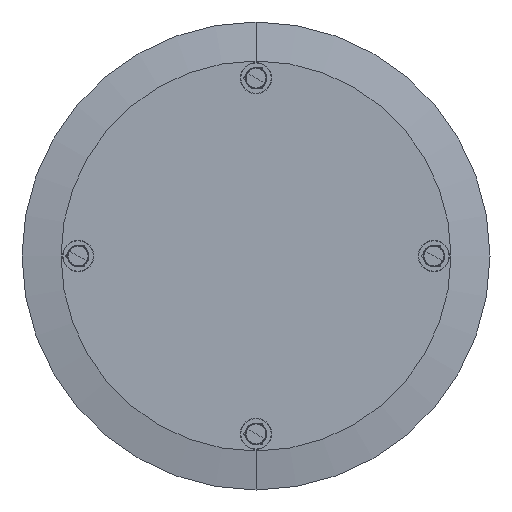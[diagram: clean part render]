
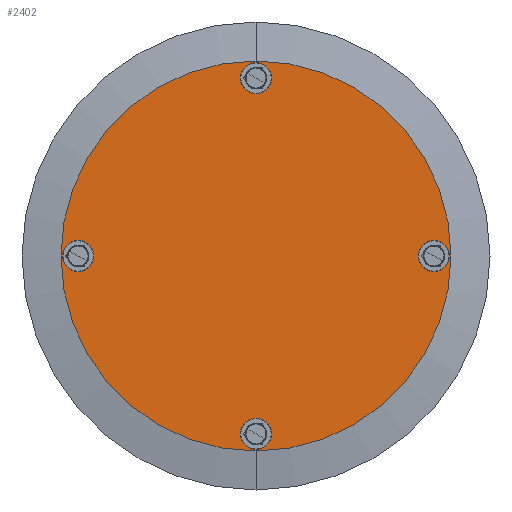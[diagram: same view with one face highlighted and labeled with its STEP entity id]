
A CAD part, front view. The second image highlights one B-rep face of the part: STEP entity #2402.
In plain terms, the highlighted planar face has unit normal (0, -1, 0).
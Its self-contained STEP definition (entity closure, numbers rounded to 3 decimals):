
#12 = AXIS2_PLACEMENT_3D ( 'NONE', #485, #2027, #852 ) ;
#20 = CARTESIAN_POINT ( 'NONE',  ( 0., 0., -416. ) ) ;
#89 = ORIENTED_EDGE ( 'NONE', *, *, #240, .F. ) ;
#122 = AXIS2_PLACEMENT_3D ( 'NONE', #2231, #1513, #1075 ) ;
#168 = ORIENTED_EDGE ( 'NONE', *, *, #2023, .F. ) ;
#200 = DIRECTION ( 'NONE',  ( 0., -1., 0. ) ) ;
#208 = EDGE_LOOP ( 'NONE', ( #2228, #324 ) ) ;
#213 = DIRECTION ( 'NONE',  ( 0., 0., -1. ) ) ;
#225 = EDGE_CURVE ( 'NONE', #494, #1640, #2277, .T. ) ;
#240 = EDGE_CURVE ( 'NONE', #2420, #2248, #1776, .T. ) ;
#241 = FACE_BOUND ( 'NONE', #2413, .T. ) ;
#301 = CARTESIAN_POINT ( 'NONE',  ( 0., 0., -456. ) ) ;
#307 = CIRCLE ( 'NONE', #2097, 40. ) ;
#315 = CARTESIAN_POINT ( 'NONE',  ( 0., 0., 456. ) ) ;
#319 = CARTESIAN_POINT ( 'NONE',  ( -456., 0., -40. ) ) ;
#324 = ORIENTED_EDGE ( 'NONE', *, *, #1356, .T. ) ;
#361 = DIRECTION ( 'NONE',  ( 0., 0., -1. ) ) ;
#422 = ORIENTED_EDGE ( 'NONE', *, *, #590, .F. ) ;
#485 = CARTESIAN_POINT ( 'NONE',  ( 0., 0., 456. ) ) ;
#488 = DIRECTION ( 'NONE',  ( 0., 0., -1. ) ) ;
#494 = VERTEX_POINT ( 'NONE', #20 ) ;
#504 = DIRECTION ( 'NONE',  ( 0., -1., 0. ) ) ;
#510 = CARTESIAN_POINT ( 'NONE',  ( 0., 0., 500. ) ) ;
#519 = DIRECTION ( 'NONE',  ( 0., 0., 1. ) ) ;
#569 = AXIS2_PLACEMENT_3D ( 'NONE', #1127, #1547, #1738 ) ;
#590 = EDGE_CURVE ( 'NONE', #1817, #2252, #2434, .T. ) ;
#615 = VERTEX_POINT ( 'NONE', #2322 ) ;
#616 = CIRCLE ( 'NONE', #569, 40. ) ;
#754 = DIRECTION ( 'NONE',  ( 0., 0., -1. ) ) ;
#763 = CARTESIAN_POINT ( 'NONE',  ( 456., 0., 0. ) ) ;
#788 = AXIS2_PLACEMENT_3D ( 'NONE', #2456, #504, #519 ) ;
#842 = FACE_OUTER_BOUND ( 'NONE', #208, .T. ) ;
#852 = DIRECTION ( 'NONE',  ( 0., 0., -1. ) ) ;
#1047 = VERTEX_POINT ( 'NONE', #319 ) ;
#1049 = VERTEX_POINT ( 'NONE', #510 ) ;
#1075 = DIRECTION ( 'NONE',  ( 0., 0., 1. ) ) ;
#1086 = CARTESIAN_POINT ( 'NONE',  ( 0., 0., 496. ) ) ;
#1106 = DIRECTION ( 'NONE',  ( 0., -1., 0. ) ) ;
#1116 = CARTESIAN_POINT ( 'NONE',  ( -456., 0., 40. ) ) ;
#1127 = CARTESIAN_POINT ( 'NONE',  ( -456., 0., 0. ) ) ;
#1146 = ORIENTED_EDGE ( 'NONE', *, *, #1431, .F. ) ;
#1147 = CIRCLE ( 'NONE', #2002, 500. ) ;
#1178 = CARTESIAN_POINT ( 'NONE',  ( 0., 0., 416. ) ) ;
#1182 = CARTESIAN_POINT ( 'NONE',  ( 456., 0., 0. ) ) ;
#1207 = ORIENTED_EDGE ( 'NONE', *, *, #225, .F. ) ;
#1217 = CIRCLE ( 'NONE', #1360, 40. ) ;
#1325 = DIRECTION ( 'NONE',  ( 0., -1., 0. ) ) ;
#1354 = ORIENTED_EDGE ( 'NONE', *, *, #1560, .F. ) ;
#1356 = EDGE_CURVE ( 'NONE', #615, #1049, #1559, .T. ) ;
#1360 = AXIS2_PLACEMENT_3D ( 'NONE', #315, #1537, #488 ) ;
#1365 = EDGE_LOOP ( 'NONE', ( #2161, #1207 ) ) ;
#1381 = DIRECTION ( 'NONE',  ( 0., -1., 0. ) ) ;
#1431 = EDGE_CURVE ( 'NONE', #1047, #2076, #1580, .T. ) ;
#1435 = EDGE_CURVE ( 'NONE', #1049, #615, #1147, .T. ) ;
#1486 = EDGE_CURVE ( 'NONE', #1640, #494, #1848, .T. ) ;
#1491 = DIRECTION ( 'NONE',  ( 0., 0., -1. ) ) ;
#1495 = FACE_BOUND ( 'NONE', #1549, .T. ) ;
#1513 = DIRECTION ( 'NONE',  ( 0., 1., 0. ) ) ;
#1531 = FACE_BOUND ( 'NONE', #1365, .T. ) ;
#1534 = CARTESIAN_POINT ( 'NONE',  ( 456., 0., 40. ) ) ;
#1537 = DIRECTION ( 'NONE',  ( 0., -1., 0. ) ) ;
#1545 = AXIS2_PLACEMENT_3D ( 'NONE', #2446, #1106, #1491 ) ;
#1547 = DIRECTION ( 'NONE',  ( 0., -1., 0. ) ) ;
#1549 = EDGE_LOOP ( 'NONE', ( #168, #422 ) ) ;
#1559 = CIRCLE ( 'NONE', #788, 500. ) ;
#1560 = EDGE_CURVE ( 'NONE', #2076, #1047, #616, .T. ) ;
#1580 = CIRCLE ( 'NONE', #1545, 40. ) ;
#1640 = VERTEX_POINT ( 'NONE', #2297 ) ;
#1693 = CARTESIAN_POINT ( 'NONE',  ( 0., 0., 0. ) ) ;
#1702 = EDGE_LOOP ( 'NONE', ( #2313, #89 ) ) ;
#1738 = DIRECTION ( 'NONE',  ( 0., 0., -1. ) ) ;
#1740 = FACE_BOUND ( 'NONE', #1702, .T. ) ;
#1776 = CIRCLE ( 'NONE', #12, 40. ) ;
#1817 = VERTEX_POINT ( 'NONE', #1534 ) ;
#1848 = CIRCLE ( 'NONE', #2304, 40. ) ;
#1860 = PLANE ( 'NONE',  #122 ) ;
#1898 = DIRECTION ( 'NONE',  ( 0., 0., 1. ) ) ;
#2002 = AXIS2_PLACEMENT_3D ( 'NONE', #1693, #2079, #1898 ) ;
#2023 = EDGE_CURVE ( 'NONE', #2252, #1817, #307, .T. ) ;
#2027 = DIRECTION ( 'NONE',  ( 0., -1., 0. ) ) ;
#2076 = VERTEX_POINT ( 'NONE', #1116 ) ;
#2079 = DIRECTION ( 'NONE',  ( 0., -1., 0. ) ) ;
#2089 = CARTESIAN_POINT ( 'NONE',  ( 0., 0., -456. ) ) ;
#2097 = AXIS2_PLACEMENT_3D ( 'NONE', #763, #200, #754 ) ;
#2161 = ORIENTED_EDGE ( 'NONE', *, *, #1486, .F. ) ;
#2167 = EDGE_CURVE ( 'NONE', #2248, #2420, #1217, .T. ) ;
#2211 = DIRECTION ( 'NONE',  ( 0., -1., 0. ) ) ;
#2228 = ORIENTED_EDGE ( 'NONE', *, *, #1435, .T. ) ;
#2231 = CARTESIAN_POINT ( 'NONE',  ( 0., 0., 0. ) ) ;
#2248 = VERTEX_POINT ( 'NONE', #1178 ) ;
#2252 = VERTEX_POINT ( 'NONE', #2333 ) ;
#2277 = CIRCLE ( 'NONE', #2470, 40. ) ;
#2283 = AXIS2_PLACEMENT_3D ( 'NONE', #1182, #1381, #213 ) ;
#2297 = CARTESIAN_POINT ( 'NONE',  ( 0., 0., -496. ) ) ;
#2304 = AXIS2_PLACEMENT_3D ( 'NONE', #2089, #1325, #361 ) ;
#2313 = ORIENTED_EDGE ( 'NONE', *, *, #2167, .F. ) ;
#2322 = CARTESIAN_POINT ( 'NONE',  ( 0., 0., -500. ) ) ;
#2333 = CARTESIAN_POINT ( 'NONE',  ( 456., 0., -40. ) ) ;
#2402 = ADVANCED_FACE ( 'NONE', ( #1495, #1531, #241, #1740, #842 ), #1860, .F. ) ;
#2413 = EDGE_LOOP ( 'NONE', ( #1146, #1354 ) ) ;
#2414 = DIRECTION ( 'NONE',  ( 0., 0., -1. ) ) ;
#2420 = VERTEX_POINT ( 'NONE', #1086 ) ;
#2434 = CIRCLE ( 'NONE', #2283, 40. ) ;
#2446 = CARTESIAN_POINT ( 'NONE',  ( -456., 0., 0. ) ) ;
#2456 = CARTESIAN_POINT ( 'NONE',  ( 0., 0., 0. ) ) ;
#2470 = AXIS2_PLACEMENT_3D ( 'NONE', #301, #2211, #2414 ) ;
